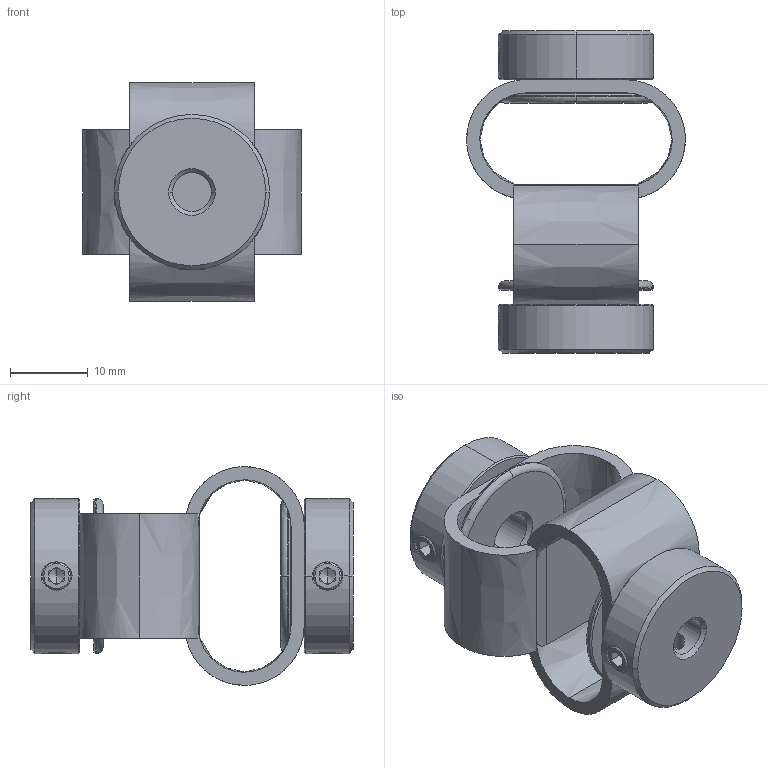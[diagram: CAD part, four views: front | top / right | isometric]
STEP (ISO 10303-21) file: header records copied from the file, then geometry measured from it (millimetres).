
FILE_DESCRIPTION (( 'STEP AP203' ), '1' );
FILE_NAME ('LS-D-D27L40-5-6.STEP', '2021-10-28T06:08:12', ( '' ), ( '' ), 'SwSTEP 2.0', 'SolidWorks 2018', '' );
FILE_SCHEMA (( 'CONFIG_CONTROL_DESIGN' ));
Length unit declared in the file: millimetre
Products named in the file (1): LS-D-D27L40-5-6
Bounding box: 28.2 x 41.54 x 28.2 mm (x, y, z)
Volume: 7380.4 mm3; surface area: 6696.6 mm2
Topology: 1 solids, 1 shells, 190 faces, 490 edges, 306 vertices
Faces by surface type: plane 86, cone 54, cylinder 30, bspline 16, torus 4
Entity records: 7767 total; most frequent: CARTESIAN_POINT 3209, ORIENTED_EDGE 964, DIRECTION 886, EDGE_CURVE 482, AXIS2_PLACEMENT_3D 345, VERTEX_POINT 306, EDGE_LOOP 218, VECTOR 196
